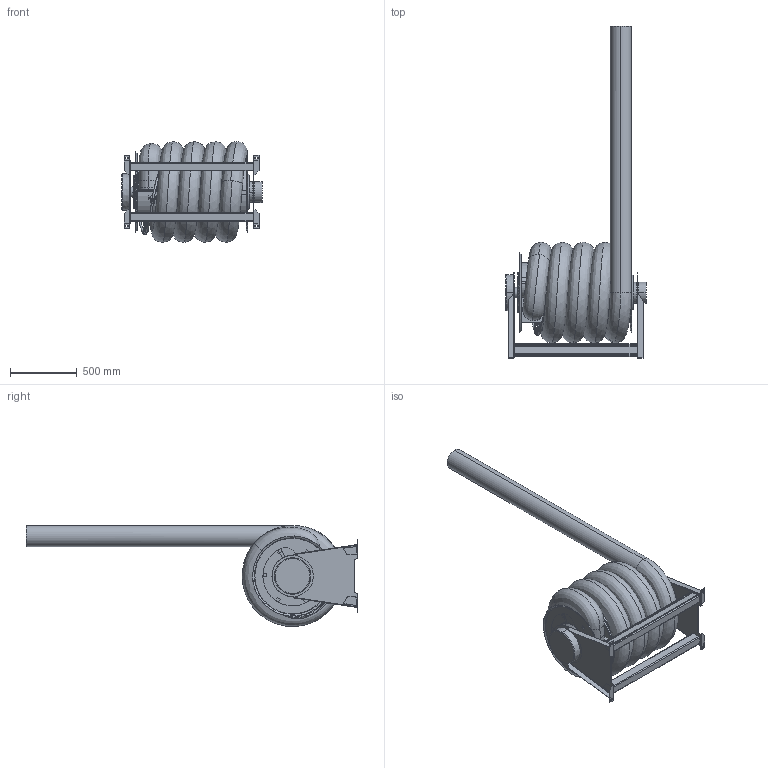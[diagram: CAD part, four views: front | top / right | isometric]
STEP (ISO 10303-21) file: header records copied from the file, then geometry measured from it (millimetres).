
FILE_DESCRIPTION((''),'2;1');
FILE_NAME('ASE_85_150-10_SW0001','2016-12-15T',('Martin Eriksson'),(''),'CREO PARAMETRIC BY PTC INC, 2016130','CREO PARAMETRIC BY PTC INC, 2016130','');
FILE_SCHEMA(('AUTOMOTIVE_DESIGN { 1 0 10303 214 1 1 1 1 }'));
Length unit declared in the file: millimetre
Products named in the file (1): ASE_85_150-10_SW0001
Bounding box: 1053.5 x 2491 x 757.73 mm (x, y, z)
Surface area: 9493379.6 mm2 (no closed solid volume)
Topology: 0 solids, 29 shells, 237 faces, 948 edges, 736 vertices
Faces by surface type: plane 112, cylinder 59, torus 26, bspline 20, cone 20
Entity records: 21199 total; most frequent: CARTESIAN_POINT 11937, DIRECTION 1689, ORIENTED_EDGE 1292, EDGE_CURVE 948, VERTEX_POINT 736, AXIS2_PLACEMENT_3D 567, VECTOR 555, LINE 555
